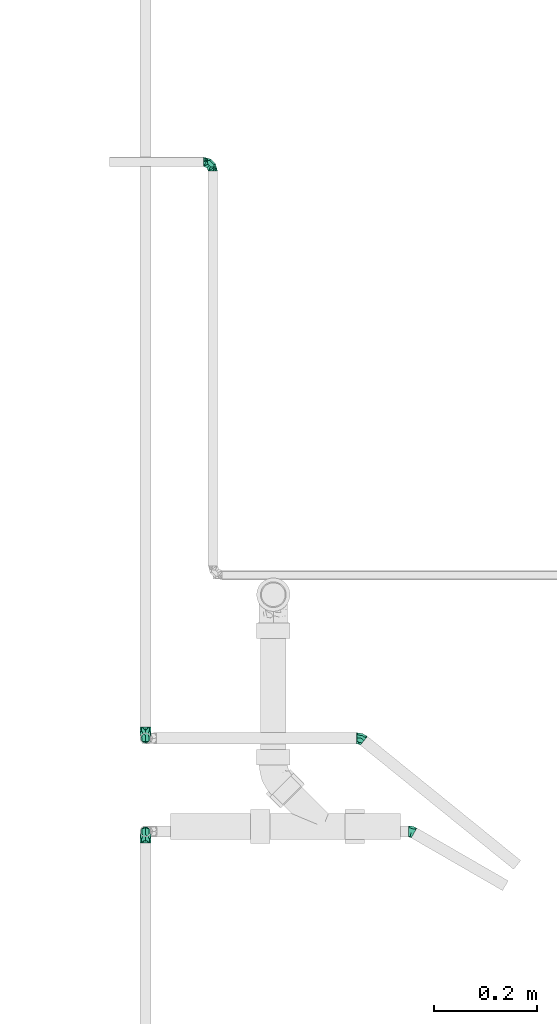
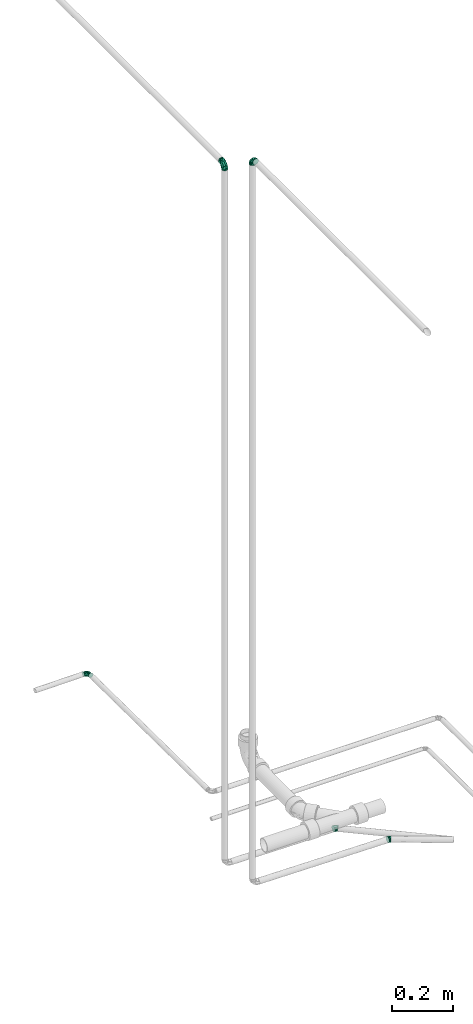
# One storey, part 33 of 35: 5 flow fittings.
"""IFC2X3 building model written with IfcOpenShell, lengths in millimetres."""

from ifc_helpers import new_model, entity, si_unit, converted_unit, derived_unit, direction, frame, origin_with_axes, place, context, subcontext, project, spatial, open_shell, surface_model, source, transform, mapped, type_object, element, save


model = new_model("IFC2X3")

# Units and contexts
model_context = context("Model", 3, precision=0.01, world=frame((0.0, 4.29681676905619e-09, 0.0)), true_north=direction((4.01073788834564e-13, 1.0)))
plan_context = context("Plan", 3, precision=0.01, world=frame((0.0, 4.29681676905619e-09, 0.0)), true_north=direction((4.01073788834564e-13, 1.0)))
body_context = subcontext(model_context, "Body", "Model", "MODEL_VIEW")
ifc_project = project(units=[converted_unit("PLANEANGLEUNIT", "DEGREE", entity("IfcPositiveLengthMeasure", 0.0174532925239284), si_unit("PLANEANGLEUNIT", "RADIAN"), dimensions=[0, 0, 0, 0, 0, 0, 0]), si_unit("AREAUNIT", "SQUARE_METRE"), si_unit("LENGTHUNIT", "METRE", prefix="MILLI"), si_unit("MASSUNIT", "GRAM", prefix="KILO"), si_unit("POWERUNIT", "WATT"), si_unit("PRESSUREUNIT", "PASCAL"), si_unit("FORCEUNIT", "NEWTON", prefix="KILO"), si_unit("ELECTRICVOLTAGEUNIT", "VOLT"), si_unit("ELECTRICCURRENTUNIT", "AMPERE"), si_unit("THERMODYNAMICTEMPERATUREUNIT", "DEGREE_CELSIUS"), si_unit("TIMEUNIT", "SECOND"), si_unit("VOLUMEUNIT", "CUBIC_METRE"), derived_unit("LINEARVELOCITYUNIT", [(si_unit("LENGTHUNIT", "METRE"), 1), (si_unit("TIMEUNIT", "SECOND"), -1)]), derived_unit("VOLUMETRICFLOWRATEUNIT", [(si_unit("VOLUMEUNIT", "CUBIC_METRE"), 1), (si_unit("TIMEUNIT", "SECOND"), -1)]), derived_unit("THERMALTRANSMITTANCEUNIT", [(si_unit("POWERUNIT", "WATT"), 1), (si_unit("THERMODYNAMICTEMPERATUREUNIT", "KELVIN"), -1), (si_unit("AREAUNIT", "SQUARE_METRE"), -1)]), derived_unit("SOUNDPRESSUREUNIT", [(si_unit("PRESSUREUNIT", "PASCAL"), 1)])], contexts=[model_context, plan_context])

# Site, building, storey
site_placement = place(None, frame((0.0, -4.29681676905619e-09, 0.0), z_axis=(0.0, 0.0, 1.0), x_axis=(1.0, 0.0, 0.0)))
site = spatial("IfcSite", under=ifc_project, at=site_placement, Name="ENGM", CompositionType="ELEMENT")
building_placement = place(site_placement, frame((0.0, 4.29681676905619e-09, 0.0), z_axis=(0.0, 0.0, 1.0), x_axis=(1.0, 0.0, 0.0)))
building = spatial("IfcBuilding", under=site, at=building_placement, Name="TH", CompositionType="ELEMENT")
storey_placement = place(building_placement, frame((0.0, 0.0, 210200.0), z_axis=(0.0, 0.0, 1.0), x_axis=(1.0, 0.0, 0.0)))
storey = spatial("IfcBuildingStorey", under=building, at=storey_placement, Name="Nivå F - 0,7 m", CompositionType="ELEMENT", Elevation=210200.0)

# Flow fittings
pipe_fitting_type = type_object("IfcPipeFittingType", Name="magi_pipe_cu_elbow_short_001", PredefinedType="BEND")
shared_shape_1 = source(origin_with_axes(), body_context, "Body", "SurfaceModel", [
    surface_model("IfcShellBasedSurfaceModel", [(-17.9982, 2.32937, -8.69333), (-17.9982, 0.0, -9.0), (-17.9982, 6.36396, -6.36396), (-17.9982, 4.5, -7.79423), (-17.9982, -8.69333, -2.32937), (-17.9982, -8.69333, 2.32937), (-17.9982, -2.32937, -8.69333), (-17.9982, 7.79423, -4.5), (-17.9982, -6.36396, -6.36396), (-17.9982, -7.79423, -4.5), (-17.9982, -4.5, -7.79423), (-17.9982, -9.0, 0.0), (-17.9982, 9.0, 0.0), (-17.9982, 8.69333, -2.32937), (-17.9982, 4.5, 7.79423), (-17.9982, 8.69333, 2.32937), (-17.9982, 7.79423, 4.5), (-17.9982, 6.36396, 6.36396), (-17.9982, 2.32937, 8.69333), (-17.9982, -6.36396, 6.36396), (-17.9982, -4.5, 7.79423), (-17.9982, -7.79423, 4.5), (-17.9982, -2.32937, 8.69333), (-17.9982, 0.0, 9.0), (-7.79243, 17.99898, -4.5), (0.0018, 17.9982, -9.0), (-2.32757, 17.99843, -8.69333), (-4.4982, 17.99865, -7.79423), (4.5018, 17.99775, -7.79423), (-6.36216, 17.99884, -6.36396), (-8.69153, 17.99907, 2.32937), (7.79603, 17.99742, -4.5), (6.36576, 17.99756, -6.36396), (2.33117, 17.99797, -8.69333), (7.79603, 17.99742, 4.5), (8.69513, 17.99733, -2.32937), (8.69513, 17.99733, 2.32937), (9.0018, 17.9973, 0.0), (-8.69153, 17.99907, -2.32937), (-4.4982, 17.99865, 7.79423), (-7.79243, 17.99898, 4.5), (-6.36216, 17.99884, 6.36396), (-2.32757, 17.99843, 8.69333), (4.5018, 17.99775, 7.79423), (6.36576, 17.99756, 6.36396), (0.0018, 17.9982, 9.0), (2.33117, 17.99797, 8.69333), (-8.9982, 17.9991, 0.0), (-16.08833, -8.48829, 0.0), (-10.50924, -2.97232, 7.92293), (-10.35872, -6.95314, 0.0), (-4.49898, -5.38314, 0.0), (0.4423, -0.44235, 0.0), (2.91294, 2.02805, 0.0), (-2.70117, 1.18743, 7.65672), (-2.02834, -2.91274, 0.0), (-14.17846, -7.97657, 0.0), (-7.11694, 7.11765, 8.613), (-4.93948, 9.63211, 8.64862), (2.97337, 10.50895, 7.92293), (2.01316, 5.84745, 7.1907), (5.38359, 4.49844, 0.0), (-5.7343, -2.07929, 7.10196), (8.48989, 16.08748, 0.0), (7.97799, 14.17766, 0.0), (-9.63161, 4.94045, 8.64862), (-10.31638, 14.81741, 0.0), (-14.81638, 10.31786, 0.0), (-11.63456, 11.63572, 0.0), (6.95418, 10.35802, 0.0), (-10.50924, -2.97232, -7.92293), (-4.93948, 9.63211, -8.64862), (0.86, 4.1253, -7.1907), (-2.68641, 2.14062, -8.0399), (2.97337, 10.50895, -7.92293), (-13.66875, 7.29639, -6.27269), (-8.50184, 2.18785, -8.98901), (-9.8329, 8.11208, -7.36235)], [open_shell([[[0, 1, 2]], [[3, 0, 2]], [[2, 4, 5]], [[1, 6, 2]], [[5, 7, 2]], [[8, 9, 10]], [[6, 10, 4]], [[9, 4, 10]], [[4, 2, 6]], [[11, 5, 4]], [[12, 13, 7]], [[14, 15, 7]], [[16, 15, 14]], [[5, 14, 7]], [[17, 16, 14]], [[18, 14, 5]], [[19, 20, 21]], [[5, 21, 20]], [[22, 23, 20]], [[18, 5, 20]], [[20, 23, 18]], [[12, 7, 15]], [[24, 25, 26]], [[24, 26, 27]], [[25, 24, 28]], [[24, 27, 29]], [[30, 31, 24]], [[28, 31, 32]], [[28, 33, 25]], [[31, 28, 24]], [[31, 34, 35]], [[35, 36, 37]], [[38, 30, 24]], [[31, 30, 34]], [[39, 30, 40]], [[30, 39, 34]], [[39, 40, 41]], [[42, 43, 39]], [[34, 43, 44]], [[36, 35, 34]], [[43, 45, 46]], [[43, 34, 39]], [[45, 43, 42]], [[30, 38, 47]], [[5, 48, 21]], [[49, 50, 51]], [[52, 53, 54]], [[54, 55, 52]], [[20, 19, 56]], [[21, 56, 19]], [[57, 54, 58]], [[20, 50, 22]], [[23, 22, 50]], [[59, 60, 61]], [[59, 58, 60]], [[55, 54, 62]], [[23, 50, 49]], [[23, 49, 18]], [[62, 49, 51]], [[62, 51, 55]], [[34, 63, 36]], [[49, 14, 18]], [[64, 63, 34]], [[15, 65, 12]], [[16, 17, 49]], [[54, 65, 62]], [[14, 49, 17]], [[57, 58, 66]], [[67, 57, 68]], [[53, 60, 54]], [[46, 45, 69]], [[69, 43, 46]], [[41, 59, 39]], [[42, 59, 45]], [[44, 43, 64]], [[54, 60, 58]], [[64, 43, 69]], [[61, 60, 53]], [[36, 63, 37]], [[59, 61, 69]], [[58, 47, 66]], [[20, 56, 50]], [[54, 57, 65]], [[49, 65, 16]], [[30, 47, 58]], [[64, 34, 44]], [[40, 30, 58]], [[16, 65, 15]], [[41, 40, 59]], [[5, 11, 48]], [[40, 58, 59]], [[48, 56, 21]], [[39, 59, 42]], [[59, 69, 45]], [[49, 62, 65]], [[57, 67, 65]], [[66, 68, 57]], [[67, 12, 65]], [[70, 50, 1]], [[71, 72, 73]], [[74, 71, 24]], [[70, 0, 3]], [[70, 51, 50]], [[35, 37, 63]], [[75, 2, 7]], [[75, 13, 12]], [[7, 13, 75]], [[51, 76, 55]], [[75, 12, 67]], [[70, 2, 75]], [[48, 11, 4]], [[10, 56, 8]], [[1, 50, 6]], [[51, 70, 76]], [[56, 10, 50]], [[10, 6, 50]], [[70, 1, 0]], [[74, 72, 71]], [[52, 72, 53]], [[2, 70, 3]], [[70, 75, 76]], [[73, 52, 55]], [[38, 71, 47]], [[61, 53, 72]], [[28, 64, 69]], [[71, 77, 68]], [[29, 74, 24]], [[56, 9, 8]], [[27, 26, 74]], [[63, 64, 31]], [[56, 48, 9]], [[27, 74, 29]], [[9, 48, 4]], [[25, 74, 26]], [[33, 69, 25]], [[24, 71, 38]], [[32, 64, 28]], [[69, 33, 28]], [[71, 68, 66]], [[74, 25, 69]], [[31, 35, 63]], [[61, 72, 74]], [[61, 74, 69]], [[67, 77, 75]], [[66, 47, 71]], [[31, 64, 32]], [[76, 77, 73]], [[75, 77, 76]], [[77, 71, 73]], [[55, 76, 73]], [[72, 52, 73]], [[77, 67, 68]]])]),
])
flow_fitting_1_placement = place(storey_placement, frame((898630.50163, 484777.73199, 194.100000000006), z_axis=(-0.00999900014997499, 0.00999900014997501, 0.9999000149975), x_axis=(4.99900024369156e-09, 0.999950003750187, -0.00999949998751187)))
element("IfcFlowFitting", 1, at=flow_fitting_1_placement, inside=storey, type_object=pipe_fitting_type, Name="magi_pipe_cu_elbow_short_001", context=body_context, shape_type="MappedRepresentation", body=[
    mapped(shared_shape_1, transform((0.0, 0.0, 0.0), scale=1.0)),
])
shared_shape_2 = source(origin_with_axes(), body_context, "Body", "SurfaceModel", [
    surface_model("IfcShellBasedSurfaceModel", [(-22.0, 0.0, -11.0), (-22.0, -2.84701, -10.62518), (-22.0, 2.84701, -10.62518), (-22.0, 5.5, -9.52628), (-22.0, 7.77817, -7.77817), (-22.0, 10.62518, -2.84701), (-22.0, 9.52628, -5.5), (-22.0, -7.77817, -7.77817), (-22.0, -9.52628, -5.5), (-22.0, -5.5, -9.52628), (-22.0, -10.62518, -2.84701), (-22.0, -9.52628, 5.5), (-22.0, -11.0, 0.0), (-22.0, 10.62518, 2.84701), (-22.0, 9.52628, 5.5), (-22.0, 7.77817, 7.77817), (-22.0, 2.84701, 10.62518), (-22.0, 5.5, 9.52628), (-22.0, -7.77817, 7.77817), (-22.0, -10.62518, 2.84701), (-22.0, -2.84701, 10.62518), (-22.0, 0.0, 11.0), (-22.0, -5.5, 9.52628), (-22.0, 11.0, 0.0), (-2.84701, 22.0, -10.62518), (2.84701, 22.0, -10.62518), (0.0, 22.0, -11.0), (-7.77817, 22.0, -7.77817), (-5.5, 22.0, -9.52628), (-7.77817, 22.0, 7.77817), (-5.5, 22.0, 9.52628), (-2.84701, 22.0, 10.62518), (5.5, 22.0, 9.52628), (0.0, 22.0, 11.0), (2.84701, 22.0, 10.62518), (7.77817, 22.0, 7.77817), (-10.62518, 22.0, 2.84701), (-10.62518, 22.0, -2.84701), (-11.0, 22.0, 0.0), (-18.49859, -10.0618, 0.0), (-10.24859, -7.85122, 0.0), (-9.34901, -7.11844, 5.09685), (-14.89307, -7.23891, 7.45305), (5.78852, 8.4802, 6.46058), (2.12041, 3.18539, 6.87037), (3.55913, 2.48029, 0.0), (1.01335, 10.61047, 10.36705), (-14.99718, -9.1236, 0.0), (5.14392, 14.4409, 9.10203), (-11.75269, -3.39299, 9.59306), (7.85122, 10.24859, 0.0), (9.1236, 14.99718, 0.0), (-8.06006, 14.23023, 9.19276), (-3.72868, 16.47919, 10.60733), (-15.76443, 3.42828, 10.73288), (-8.21542, -0.66336, 10.02562), (-12.61091, 18.11091, 0.0), (-14.22183, 14.22183, 0.0), (-5.37587, -4.55716, 5.82482), (6.57884, 5.5, 0.0), (-15.57958, 10.44534, 6.62476), (-10.44966, 10.29499, 9.49395), (-9.52628, 22.0, 5.5), (9.52628, 22.0, 5.5), (10.62518, 22.0, 2.84701), (10.0618, 18.49859, 0.0), (11.0, 22.0, 0.0), (-7.4322, 4.10078, 10.94703), (-2.22445, -1.03187, 7.15282), (0.53942, -0.53942, 0.0), (-3.02405, 7.17381, 10.80133), (-18.11091, 12.61091, 0.0), (-2.48029, -3.55913, 0.0), (-5.5, -6.57884, 0.0), (-9.08269, -0.07613, -10.40197), (-2.22445, -1.03187, -7.15282), (-6.00435, -4.17546, -6.76221), (-8.06006, 14.23023, -9.19276), (-15.76443, 3.42828, -10.73288), (-11.75269, -3.39299, -9.59306), (-15.57958, 10.44534, -6.62476), (-7.4322, 4.10078, -10.94703), (-10.44966, 10.29499, -9.49395), (2.12041, 3.18539, -6.87037), (-3.02405, 7.17381, -10.80133), (-14.89307, -7.23891, -7.45305), (5.14392, 14.4409, -9.10203), (5.5, 22.0, -9.52628), (-9.52628, 22.0, -5.5), (-3.72868, 16.47919, -10.60733), (1.01335, 10.61047, -10.36705), (9.52628, 22.0, -5.5), (10.62518, 22.0, -2.84701), (5.78852, 8.4802, -6.46058), (7.77817, 22.0, -7.77817), (-9.34901, -7.11844, -5.09685)], [open_shell([[[0, 1, 2]], [[3, 2, 4]], [[5, 6, 4]], [[4, 2, 1]], [[5, 4, 1]], [[7, 8, 9]], [[1, 9, 8]], [[8, 10, 1]], [[11, 1, 10]], [[12, 11, 10]], [[5, 1, 11]], [[11, 13, 5]], [[14, 13, 15]], [[16, 17, 15]], [[13, 16, 15]], [[16, 13, 11]], [[11, 18, 16]], [[11, 12, 19]], [[20, 21, 22]], [[16, 18, 22]], [[21, 16, 22]], [[23, 5, 13]], [[24, 25, 26]], [[27, 24, 28]], [[29, 30, 31]], [[32, 33, 34]], [[32, 35, 31]], [[36, 37, 38]], [[11, 19, 39]], [[40, 41, 42]], [[43, 44, 45]], [[43, 46, 44]], [[42, 18, 47]], [[18, 11, 47]], [[31, 48, 33]], [[21, 42, 49]], [[42, 20, 22]], [[48, 50, 51]], [[52, 46, 53]], [[54, 49, 55]], [[56, 57, 52]], [[42, 21, 20]], [[21, 49, 16]], [[58, 49, 41]], [[45, 59, 43]], [[54, 15, 17]], [[19, 12, 39]], [[23, 13, 60]], [[14, 15, 54]], [[53, 30, 29]], [[16, 49, 54]], [[14, 60, 13]], [[54, 17, 16]], [[50, 43, 59]], [[51, 35, 32]], [[48, 34, 33]], [[60, 61, 57]], [[43, 50, 48]], [[62, 53, 29]], [[51, 63, 35]], [[32, 48, 51]], [[32, 34, 48]], [[18, 42, 22]], [[64, 65, 66]], [[42, 47, 40]], [[61, 60, 67]], [[68, 69, 44]], [[70, 67, 68]], [[14, 54, 60]], [[38, 56, 36]], [[63, 65, 64]], [[46, 48, 53]], [[43, 48, 46]], [[31, 30, 53]], [[51, 65, 63]], [[36, 52, 62]], [[39, 47, 11]], [[52, 53, 62]], [[53, 48, 31]], [[60, 54, 67]], [[44, 70, 68]], [[60, 57, 71]], [[58, 55, 49]], [[70, 44, 46]], [[58, 72, 68]], [[46, 52, 70]], [[61, 70, 52]], [[41, 40, 73]], [[58, 41, 73]], [[42, 41, 49]], [[72, 69, 68]], [[68, 67, 55]], [[58, 73, 72]], [[68, 55, 58]], [[54, 55, 67]], [[36, 56, 52]], [[70, 61, 67]], [[23, 60, 71]], [[57, 61, 52]], [[44, 69, 45]], [[74, 75, 76]], [[56, 37, 77]], [[3, 4, 78]], [[2, 79, 0]], [[5, 23, 80]], [[8, 39, 10]], [[78, 6, 80]], [[80, 6, 5]], [[81, 80, 82]], [[78, 81, 74]], [[78, 79, 2]], [[39, 12, 10]], [[75, 72, 76]], [[83, 75, 84]], [[8, 7, 47]], [[9, 1, 85]], [[86, 87, 51]], [[7, 9, 85]], [[85, 1, 0]], [[79, 85, 0]], [[7, 85, 47]], [[88, 89, 77]], [[6, 78, 4]], [[80, 23, 71]], [[75, 83, 69]], [[77, 57, 56]], [[90, 77, 89]], [[88, 77, 37]], [[88, 27, 89]], [[27, 28, 89]], [[65, 51, 91]], [[86, 89, 24]], [[47, 39, 8]], [[92, 66, 65]], [[28, 24, 89]], [[93, 83, 90]], [[26, 86, 24]], [[87, 86, 25]], [[78, 2, 3]], [[93, 90, 86]], [[94, 51, 87]], [[84, 90, 83]], [[25, 86, 26]], [[65, 91, 92]], [[89, 86, 90]], [[50, 86, 51]], [[81, 78, 80]], [[95, 73, 40]], [[94, 91, 51]], [[57, 82, 80]], [[93, 50, 59]], [[84, 75, 81]], [[40, 47, 85]], [[93, 45, 83]], [[50, 93, 86]], [[95, 85, 79]], [[82, 84, 81]], [[77, 90, 84]], [[76, 73, 95]], [[85, 95, 40]], [[76, 95, 79]], [[74, 76, 79]], [[77, 82, 57]], [[78, 74, 79]], [[75, 74, 81]], [[72, 75, 69]], [[72, 73, 76]], [[38, 37, 56]], [[57, 80, 71]], [[84, 82, 77]], [[45, 93, 59]], [[45, 69, 83]], [[62, 92, 24]], [[88, 24, 27]], [[88, 62, 24]], [[25, 94, 87]], [[94, 25, 92]], [[94, 92, 91]], [[25, 24, 92]], [[92, 64, 66]], [[36, 88, 37]], [[88, 36, 62]], [[62, 31, 92]], [[29, 31, 62]], [[35, 92, 31]], [[92, 63, 64]], [[35, 63, 92]], [[33, 32, 31]]])]),
])
flow_fitting_2_placement = place(storey_placement, frame((898499.95953, 483661.87328, 2940.10011), z_axis=(1.0, 0.0, 0.0), x_axis=(0.0, -1.0, 0.0)))
element("IfcFlowFitting", 2, at=flow_fitting_2_placement, inside=storey, type_object=pipe_fitting_type, Name="magi_pipe_cu_elbow_short_001", context=body_context, shape_type="MappedRepresentation", body=[
    mapped(shared_shape_2, transform((0.0, 0.0, 0.0), scale=1.0)),
])
shared_shape_3 = source(origin_with_axes(), body_context, "Body", "SurfaceModel", [
    surface_model("IfcShellBasedSurfaceModel", [(-22.0, 0.0, -11.0), (-22.0, -2.84701, -10.62518), (-22.0, 2.84701, -10.62518), (-22.0, 5.5, -9.52628), (-22.0, 7.77817, -7.77817), (-22.0, 10.62518, -2.84701), (-22.0, 9.52628, -5.5), (-22.0, -7.77817, -7.77817), (-22.0, -9.52628, -5.5), (-22.0, -5.5, -9.52628), (-22.0, -10.62518, -2.84701), (-22.0, -11.0, 0.0), (-22.0, -9.52628, 5.5), (-22.0, 2.84701, 10.62518), (-22.0, 5.5, 9.52628), (-22.0, 7.77817, 7.77817), (-22.0, -10.62518, 2.84701), (-22.0, -2.84701, 10.62518), (-22.0, 0.0, 11.0), (-22.0, -5.5, 9.52628), (-22.0, 11.0, 0.0), (-22.0, 10.62518, 2.84701), (-2.84701, 22.0, -10.62518), (2.84701, 22.0, -10.62518), (0.0, 22.0, -11.0), (-7.77817, 22.0, -7.77817), (-5.5, 22.0, -9.52628), (-9.52628, 22.0, -5.5), (-10.62518, 22.0, -2.84701), (5.5, 22.0, -9.52628), (9.52628, 22.0, -5.5), (7.77817, 22.0, -7.77817), (-7.77817, 22.0, 7.77817), (-5.5, 22.0, 9.52628), (-2.84701, 22.0, 10.62518), (10.62518, 22.0, 2.84701), (11.0, 22.0, 0.0), (9.52628, 22.0, 5.5), (5.5, 22.0, 9.52628), (0.0, 22.0, 11.0), (2.84701, 22.0, 10.62518), (-18.49859, -10.0618, 0.0), (-10.24859, -7.85122, 0.0), (-9.34901, -7.11844, 5.09685), (-14.89307, -7.23891, 7.45305), (5.78852, 8.4802, 6.46058), (2.12041, 3.18539, 6.87037), (3.55913, 2.48029, 0.0), (1.01335, 10.61047, 10.36705), (-22.0, -7.77817, 7.77817), (-14.99718, -9.1236, 0.0), (5.14392, 14.4409, 9.10203), (-11.75269, -3.39299, 9.59306), (7.85122, 10.24859, 0.0), (9.1236, 14.99718, 0.0), (-8.06006, 14.23023, 9.19276), (-3.72868, 16.47919, 10.60733), (-15.76443, 3.42828, 10.73288), (-8.21542, -0.66336, 10.02562), (-12.61091, 18.11091, 0.0), (-14.22183, 14.22183, 0.0), (-5.37587, -4.55716, 5.82482), (6.57884, 5.5, 0.0), (-15.57958, 10.44534, 6.62476), (-22.0, 9.52628, 5.5), (7.77817, 22.0, 7.77817), (-10.44966, 10.29499, 9.49395), (-9.52628, 22.0, 5.5), (10.0618, 18.49859, 0.0), (-7.4322, 4.10078, 10.94703), (-2.22445, -1.03187, 7.15282), (0.53942, -0.53942, 0.0), (-3.02405, 7.17381, 10.80133), (-11.0, 22.0, 0.0), (-10.62518, 22.0, 2.84701), (-18.11091, 12.61091, 0.0), (-2.48029, -3.55913, 0.0), (-5.5, -6.57884, 0.0), (-9.08269, -0.07613, -10.40197), (-2.22445, -1.03187, -7.15282), (-6.00435, -4.17546, -6.76221), (-8.06006, 14.23023, -9.19276), (-15.76443, 3.42828, -10.73288), (-11.75269, -3.39299, -9.59306), (-15.57958, 10.44534, -6.62476), (-7.4322, 4.10078, -10.94703), (-10.44966, 10.29499, -9.49395), (2.12041, 3.18539, -6.87037), (-3.02405, 7.17381, -10.80133), (-14.89307, -7.23891, -7.45305), (5.14392, 14.4409, -9.10203), (-3.72868, 16.47919, -10.60733), (1.01335, 10.61047, -10.36705), (10.62518, 22.0, -2.84701), (5.78852, 8.4802, -6.46058), (-9.34901, -7.11844, -5.09685)], [open_shell([[[0, 1, 2]], [[3, 2, 4]], [[5, 6, 4]], [[7, 8, 9]], [[1, 9, 8]], [[8, 10, 1]], [[11, 12, 10]], [[13, 14, 15]], [[12, 11, 16]], [[17, 18, 19]], [[20, 5, 21]], [[22, 23, 24]], [[25, 22, 26]], [[25, 27, 28]], [[23, 22, 25]], [[29, 30, 31]], [[30, 29, 23]], [[32, 33, 34]], [[35, 36, 37]], [[38, 39, 40]], [[12, 16, 41]], [[42, 43, 44]], [[45, 46, 47]], [[45, 48, 46]], [[44, 49, 50]], [[49, 12, 50]], [[34, 51, 39]], [[18, 44, 52]], [[44, 17, 19]], [[51, 53, 54]], [[55, 48, 56]], [[57, 52, 58]], [[59, 60, 55]], [[44, 18, 17]], [[18, 52, 13]], [[61, 52, 43]], [[47, 62, 45]], [[57, 15, 14]], [[16, 11, 41]], [[20, 21, 63]], [[64, 15, 57]], [[56, 33, 32]], [[13, 52, 57]], [[64, 63, 21]], [[57, 14, 13]], [[53, 45, 62]], [[54, 65, 38]], [[51, 40, 39]], [[63, 66, 60]], [[45, 53, 51]], [[67, 56, 32]], [[54, 37, 65]], [[38, 51, 54]], [[38, 40, 51]], [[49, 44, 19]], [[35, 68, 36]], [[44, 50, 42]], [[66, 63, 69]], [[70, 71, 46]], [[72, 69, 70]], [[64, 57, 63]], [[73, 59, 74]], [[37, 68, 35]], [[48, 51, 56]], [[45, 51, 48]], [[34, 33, 56]], [[54, 68, 37]], [[74, 55, 67]], [[41, 50, 12]], [[55, 56, 67]], [[56, 51, 34]], [[63, 57, 69]], [[46, 72, 70]], [[63, 60, 75]], [[61, 58, 52]], [[72, 46, 48]], [[61, 76, 70]], [[48, 55, 72]], [[66, 72, 55]], [[43, 42, 77]], [[61, 43, 77]], [[44, 43, 52]], [[76, 71, 70]], [[70, 69, 58]], [[61, 77, 76]], [[70, 58, 61]], [[57, 58, 69]], [[74, 59, 55]], [[72, 66, 69]], [[20, 63, 75]], [[60, 66, 55]], [[46, 71, 47]], [[78, 79, 80]], [[59, 28, 81]], [[3, 4, 82]], [[2, 83, 0]], [[5, 20, 84]], [[8, 41, 10]], [[82, 6, 84]], [[84, 6, 5]], [[85, 84, 86]], [[82, 85, 78]], [[82, 83, 2]], [[41, 11, 10]], [[79, 76, 80]], [[87, 79, 88]], [[8, 7, 50]], [[9, 1, 89]], [[90, 29, 54]], [[7, 9, 89]], [[89, 1, 0]], [[83, 89, 0]], [[7, 89, 50]], [[27, 91, 81]], [[6, 82, 4]], [[84, 20, 75]], [[79, 87, 71]], [[81, 60, 59]], [[92, 81, 91]], [[27, 81, 28]], [[27, 25, 91]], [[25, 26, 91]], [[68, 54, 30]], [[90, 91, 22]], [[50, 41, 8]], [[93, 36, 68]], [[26, 22, 91]], [[94, 87, 92]], [[24, 90, 22]], [[29, 90, 23]], [[82, 2, 3]], [[94, 92, 90]], [[31, 54, 29]], [[88, 92, 87]], [[23, 90, 24]], [[68, 30, 93]], [[91, 90, 92]], [[53, 90, 54]], [[85, 82, 84]], [[95, 77, 42]], [[31, 30, 54]], [[60, 86, 84]], [[94, 53, 62]], [[88, 79, 85]], [[42, 50, 89]], [[94, 47, 87]], [[53, 94, 90]], [[95, 89, 83]], [[86, 88, 85]], [[81, 92, 88]], [[80, 77, 95]], [[89, 95, 42]], [[80, 95, 83]], [[78, 80, 83]], [[81, 86, 60]], [[82, 78, 83]], [[79, 78, 85]], [[76, 79, 71]], [[76, 77, 80]], [[73, 28, 59]], [[88, 86, 81]], [[47, 94, 62]], [[47, 71, 87]], [[49, 19, 12]], [[37, 38, 65]], [[38, 37, 34]], [[75, 60, 84]], [[30, 36, 93]], [[73, 74, 67]], [[39, 38, 34]], [[2, 5, 4]], [[5, 2, 1]], [[10, 5, 1]], [[21, 5, 10]], [[10, 13, 21]], [[64, 21, 13]], [[64, 13, 15]], [[12, 13, 10]], [[13, 12, 19]], [[13, 19, 18]], [[25, 37, 30]], [[30, 23, 25]], [[30, 37, 36]], [[25, 28, 37]], [[73, 67, 32]], [[73, 32, 37]], [[37, 32, 34]], [[37, 28, 73]]])]),
])
flow_fitting_3_placement = place(storey_placement, frame((898499.99953, 483481.52017, 3070.08699000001), z_axis=(-1.0, 0.0, 0.0), x_axis=(0.0, 1.0, 0.0)))
element("IfcFlowFitting", 3, at=flow_fitting_3_placement, inside=storey, type_object=pipe_fitting_type, Name="magi_pipe_cu_elbow_short_001", context=body_context, shape_type="MappedRepresentation", body=[
    mapped(shared_shape_3, transform((0.0, 0.0, 0.0), scale=1.0)),
])
shared_shape_4 = source(origin_with_axes(), body_context, "Body", "SurfaceModel", [
    surface_model("IfcShellBasedSurfaceModel", [(-5.92354, 0.0, -11.0), (-5.92354, -2.84701, -10.62518), (-5.92354, 2.84701, -10.62518), (-5.92354, 5.5, -9.52628), (-5.92354, 7.77817, -7.77817), (-5.92354, 10.62518, -2.84701), (-5.92354, 9.52628, -5.5), (-5.92354, -7.77817, -7.77817), (-5.92354, -9.52628, -5.5), (-5.92354, -5.5, -9.52628), (-5.92354, -10.62518, -2.84701), (-5.92354, -9.52628, 5.5), (-5.92354, -11.0, 0.0), (-5.92354, 10.62518, 2.84701), (-5.92354, 9.52628, 5.5), (-5.92354, 7.77817, 7.77817), (-5.92354, 2.84701, 10.62518), (-5.92354, 5.5, 9.52628), (-5.92354, -7.77817, 7.77817), (-5.92354, -10.62518, 2.84701), (-5.92354, -2.84701, 10.62518), (-5.92354, 0.0, 11.0), (-5.92354, -5.5, 9.52628), (-5.92354, 11.0, 0.0), (3.69323, 5.43634, -10.62518), (6.55222, 0.51211, -10.62518), (5.12273, 2.97423, -11.0), (1.21728, 9.70085, -7.77817), (2.36116, 7.73067, -9.52628), (0.33955, 11.21263, -5.5), (-0.21221, 12.16297, -2.84701), (7.88429, -1.78221, -9.52628), (9.9059, -5.26417, -5.5), (9.02817, -3.7524, -7.77817), (10.45766, -6.21451, -2.84701), (9.9059, -5.26417, 5.5), (10.64586, -6.53866, 0.0), (-0.21221, 12.16297, 2.84701), (-0.40041, 12.48711, 0.0), (1.21728, 9.70085, 7.77817), (0.33955, 11.21263, 5.5), (2.36116, 7.73067, 9.52628), (3.69323, 5.43634, 10.62518), (7.88429, -1.78221, 9.52628), (9.02817, -3.7524, 7.77817), (10.45766, -6.21451, 2.84701), (5.12273, 2.97423, 11.0), (6.55222, 0.51211, 10.62518), (-2.299, -10.52058, 0.0), (1.44786, -5.37734, 8.9804), (-2.67698, 9.94228, 5.52319), (-0.82586, 3.06723, 10.73656), (-3.06362, 11.37828, 0.0), (2.65621, -9.86515, 0.0), (7.27061, -7.94394, 0.0), (-1.56882, 5.82659, -9.66599), (0.74285, -2.75893, -10.38005), (-2.67698, 9.94228, -5.52319), (-0.59359, -8.14452, -6.84337), (4.50764, -7.16417, -6.36209)], [open_shell([[[0, 1, 2]], [[3, 2, 4]], [[5, 6, 4]], [[4, 2, 1]], [[5, 4, 1]], [[7, 8, 9]], [[1, 9, 8]], [[8, 10, 1]], [[11, 1, 10]], [[12, 11, 10]], [[5, 1, 11]], [[11, 13, 5]], [[14, 13, 15]], [[16, 17, 15]], [[13, 16, 15]], [[16, 13, 11]], [[11, 18, 16]], [[11, 12, 19]], [[20, 21, 22]], [[16, 18, 22]], [[21, 16, 22]], [[23, 5, 13]], [[24, 25, 26]], [[27, 24, 28]], [[25, 24, 29]], [[29, 24, 27]], [[25, 29, 30]], [[31, 32, 33]], [[32, 31, 25]], [[34, 35, 36]], [[32, 25, 30]], [[34, 32, 35]], [[32, 30, 35]], [[37, 35, 38]], [[39, 37, 40]], [[39, 41, 42]], [[39, 42, 37]], [[35, 37, 42]], [[35, 43, 44]], [[45, 36, 35]], [[43, 46, 47]], [[43, 35, 42]], [[46, 43, 42]], [[35, 30, 38]], [[48, 49, 18]], [[18, 11, 48]], [[20, 22, 49]], [[15, 50, 14]], [[21, 49, 51]], [[20, 49, 21]], [[18, 49, 22]], [[48, 11, 19]], [[21, 51, 16]], [[15, 17, 51]], [[15, 51, 50]], [[14, 50, 13]], [[52, 23, 13]], [[50, 52, 13]], [[17, 16, 51]], [[19, 12, 48]], [[49, 48, 53]], [[49, 47, 46]], [[49, 44, 43]], [[46, 51, 49]], [[46, 42, 51]], [[54, 35, 44]], [[54, 44, 49]], [[45, 54, 36]], [[37, 52, 50]], [[38, 52, 37]], [[35, 54, 45]], [[41, 51, 42]], [[49, 53, 54]], [[50, 40, 37]], [[39, 50, 51]], [[50, 39, 40]], [[39, 51, 41]], [[49, 43, 47]], [[8, 48, 10]], [[2, 55, 56]], [[3, 55, 2]], [[2, 56, 0]], [[5, 57, 6]], [[6, 57, 4]], [[53, 48, 58]], [[52, 57, 5]], [[1, 56, 58]], [[55, 3, 4]], [[48, 12, 10]], [[7, 58, 8]], [[58, 56, 59]], [[4, 57, 55]], [[9, 58, 7]], [[1, 58, 9]], [[1, 0, 56]], [[8, 58, 48]], [[5, 23, 52]], [[52, 38, 30]], [[30, 29, 57]], [[55, 27, 28]], [[53, 58, 59]], [[24, 56, 55]], [[59, 25, 31]], [[27, 57, 29]], [[55, 57, 27]], [[26, 56, 24]], [[33, 59, 31]], [[34, 36, 54]], [[24, 55, 28]], [[56, 25, 59]], [[32, 34, 54]], [[59, 54, 53]], [[59, 32, 54]], [[59, 33, 32]], [[26, 25, 56]], [[52, 30, 57]]])]),
])
flow_fitting_4_placement = place(storey_placement, frame((899014.74058, 483481.65479, 183.349160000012), z_axis=(0.00999900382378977, -0.00269300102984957, 0.999946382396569), x_axis=(-0.864751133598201, 0.50210107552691, 0.00999934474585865)))
element("IfcFlowFitting", 4, at=flow_fitting_4_placement, inside=storey, type_object=pipe_fitting_type, Name="magi_pipe_cu_elbow_short_001", context=body_context, shape_type="MappedRepresentation", body=[
    mapped(shared_shape_4, transform((0.0, 0.0, 0.0), scale=1.0)),
])
shared_shape_5 = source(origin_with_axes(), body_context, "Body", "SurfaceModel", [
    surface_model("IfcShellBasedSurfaceModel", [(-7.7898, 0.0, -11.0), (-7.7898, -2.84701, -10.62518), (-7.7898, 2.84701, -10.62518), (-7.7898, 5.5, -9.52628), (-7.7898, 7.77817, -7.77817), (-7.7898, 10.62518, -2.84701), (-7.7898, 9.52628, -5.5), (-7.7898, -7.77817, -7.77817), (-7.7898, -9.52628, -5.5), (-7.7898, -5.5, -9.52628), (-7.7898, -10.62518, -2.84701), (-7.7898, -9.52628, 5.5), (-7.7898, -11.0, 0.0), (-7.7898, 10.62518, 2.84701), (-7.7898, 9.52628, 5.5), (-7.7898, 7.77817, 7.77817), (-7.7898, 2.84701, 10.62518), (-7.7898, 5.5, 9.52628), (-7.7898, -7.77817, 7.77817), (-7.7898, -10.62518, 2.84701), (-7.7898, -2.84701, 10.62518), (-7.7898, 0.0, 11.0), (-7.7898, -5.5, 9.52628), (-7.7898, 11.0, 0.0), (4.26259, 7.11454, -10.62518), (7.84567, 2.68922, -10.62518), (6.05413, 4.90188, -11.0), (1.15956, 10.94698, -7.77817), (2.59315, 9.17641, -9.52628), (0.05953, 12.30558, -5.5), (-0.63197, 13.15964, -2.84701), (12.04873, -2.50182, -5.5), (9.51511, 0.62735, -9.52628), (10.9487, -1.14322, -7.77817), (12.74023, -3.35588, -2.84701), (12.04873, -2.50182, 5.5), (12.9761, -3.64718, 0.0), (-0.63197, 13.15964, 2.84701), (4.26259, 7.11454, 10.62518), (0.05953, 12.30558, 5.5), (2.59315, 9.17641, 9.52628), (1.15956, 10.94698, 7.77817), (9.51511, 0.62735, 9.52628), (10.9487, -1.14322, 7.77817), (12.74023, -3.35588, 2.84701), (6.05413, 4.90188, 11.0), (7.84567, 2.68922, 10.62518), (-0.86783, 13.45094, 0.0), (-2.40777, -5.64062, 9.11361), (-4.19349, -10.3821, 0.0), (0.23601, -0.66655, 10.80814), (2.00968, -5.67574, 8.1755), (-2.75906, 7.79216, 8.54433), (-0.59719, -9.76421, 0.0), (-4.11826, 11.63082, 0.0), (5.42075, -2.86868, 9.11361), (9.79227, -5.43, 0.0), (6.60844, -7.21282, 0.0), (3.22481, -9.10753, 0.0), (0.23601, -0.66655, -10.80814), (-2.75906, 7.79216, -8.54433), (2.00968, -5.67574, -8.1755), (-2.40777, -5.64062, -9.11361), (5.42075, -2.86868, -9.11361)], [open_shell([[[0, 1, 2]], [[3, 2, 4]], [[5, 6, 4]], [[4, 2, 1]], [[5, 4, 1]], [[7, 8, 9]], [[1, 9, 8]], [[8, 10, 1]], [[11, 1, 10]], [[12, 11, 10]], [[5, 1, 11]], [[11, 13, 5]], [[14, 13, 15]], [[16, 17, 15]], [[13, 16, 15]], [[16, 13, 11]], [[11, 18, 16]], [[11, 12, 19]], [[20, 21, 22]], [[16, 18, 22]], [[21, 16, 22]], [[23, 5, 13]], [[24, 25, 26]], [[27, 24, 28]], [[27, 29, 30]], [[27, 30, 24]], [[31, 24, 30]], [[32, 31, 33]], [[31, 32, 25]], [[30, 34, 31]], [[31, 25, 24]], [[35, 36, 34]], [[34, 30, 37]], [[34, 37, 35]], [[38, 37, 39]], [[40, 38, 39]], [[40, 39, 41]], [[35, 37, 38]], [[35, 42, 43]], [[44, 36, 35]], [[42, 45, 46]], [[42, 35, 38]], [[45, 42, 38]], [[37, 30, 47]], [[48, 18, 49]], [[49, 18, 11]], [[50, 21, 48]], [[50, 48, 51]], [[50, 16, 21]], [[20, 22, 48]], [[17, 52, 15]], [[19, 49, 11]], [[48, 49, 53]], [[17, 50, 52]], [[14, 15, 52]], [[48, 21, 20]], [[18, 48, 22]], [[14, 52, 13]], [[54, 23, 13]], [[52, 54, 13]], [[53, 51, 48]], [[17, 16, 50]], [[19, 12, 49]], [[51, 55, 50]], [[55, 42, 46]], [[45, 55, 46]], [[40, 52, 50]], [[45, 50, 55]], [[43, 55, 56]], [[43, 42, 55]], [[44, 56, 36]], [[55, 57, 56]], [[37, 54, 52]], [[47, 54, 37]], [[51, 53, 58]], [[56, 35, 43]], [[40, 50, 38]], [[35, 56, 44]], [[39, 37, 52]], [[57, 55, 51]], [[41, 52, 40]], [[39, 52, 41]], [[57, 51, 58]], [[45, 38, 50]], [[49, 8, 7]], [[8, 49, 10]], [[2, 3, 59]], [[2, 59, 0]], [[5, 60, 6]], [[61, 57, 58]], [[60, 4, 6]], [[53, 62, 61]], [[60, 5, 54]], [[53, 61, 58]], [[3, 60, 59]], [[60, 3, 4]], [[49, 12, 10]], [[62, 49, 7]], [[9, 1, 62]], [[62, 53, 49]], [[7, 9, 62]], [[62, 1, 0]], [[59, 62, 0]], [[5, 23, 54]], [[54, 47, 30]], [[30, 29, 60]], [[60, 28, 59]], [[63, 26, 25]], [[59, 28, 24]], [[63, 56, 57]], [[33, 63, 32]], [[29, 27, 60]], [[57, 61, 63]], [[26, 59, 24]], [[34, 36, 56]], [[28, 60, 27]], [[33, 56, 63]], [[59, 26, 63]], [[34, 56, 31]], [[61, 62, 59]], [[33, 31, 56]], [[59, 63, 61]], [[63, 25, 32]], [[54, 30, 60]]])]),
])
flow_fitting_5_placement = place(storey_placement, frame((898916.66484, 483661.97713, 152.028909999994), z_axis=(0.00999899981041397, -0.00347199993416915, 0.999943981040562), x_axis=(-0.777126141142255, 0.629266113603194, 0.00995585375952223)))
element("IfcFlowFitting", 5, at=flow_fitting_5_placement, inside=storey, type_object=pipe_fitting_type, Name="magi_pipe_cu_elbow_short_001", context=body_context, shape_type="MappedRepresentation", body=[
    mapped(shared_shape_5, transform((0.0, 0.0, 0.0), scale=1.0)),
])

save(model, "model.ifc")
